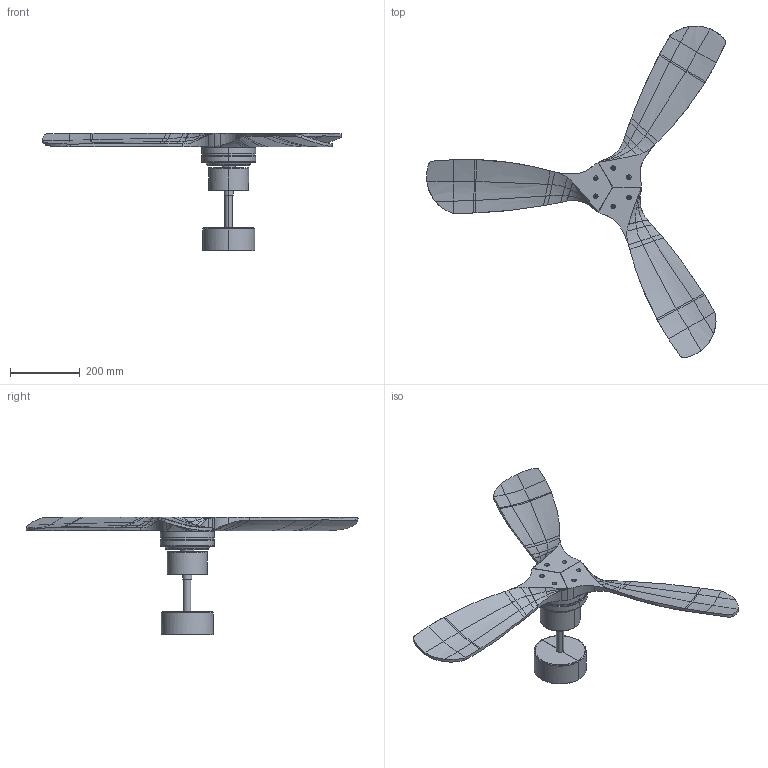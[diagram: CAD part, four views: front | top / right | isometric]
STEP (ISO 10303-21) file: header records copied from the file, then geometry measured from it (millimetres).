
FILE_DESCRIPTION(/* description */ (''),/* implementation_level */ '2;1');
FILE_NAME(/* name */ 'C:\Users\francosartori\Documents\Modelos\01_Digitalizados\0_LANTAU\03_Publicación\33509 - Vista 3D - {3D}.stp',/* time_stamp */ '2020-07-01T12:55:30+02:00',/* author */ ('FrancoSartori'),/* organization */ (''),/* preprocessor_version */ 'ST-DEVELOPER v18.1',/* originating_system */ 'AutoCAD Mechanical',/* authorisation */ '');
FILE_SCHEMA (('AUTOMOTIVE_DESIGN { 1 0 10303 214 3 1 1 }'));
Length unit declared in the file: millimetre
Products named in the file (2): Product; 33508_33509_33517_LANTAU_FAN_T - LANTAU-460003-_3D_
Assembly tree (1 placements, depth 2):
  Product
    33508_33509_33517_LANTAU_FAN_T - LANTAU-460003-_3D_
Bounding box: 859.38 x 954.37 x 338.75 mm (x, y, z)
Volume: 2782845.7 mm3; surface area: 828405.8 mm2
Topology: 9 solids, 9 shells, 482 faces, 1257 edges, 789 vertices
Faces by surface type: cylinder 153, bspline 129, plane 128, torus 56, cone 16
Entity records: 21239 total; most frequent: CARTESIAN_POINT 10772, ORIENTED_EDGE 2502, DIRECTION 1599, EDGE_CURVE 1251, VERTEX_POINT 789, B_SPLINE_CURVE_WITH_KNOTS 620, AXIS2_PLACEMENT_3D 612, EDGE_LOOP 520
